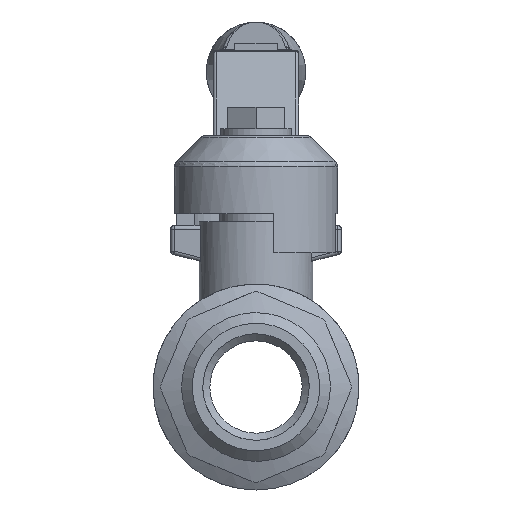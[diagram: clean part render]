
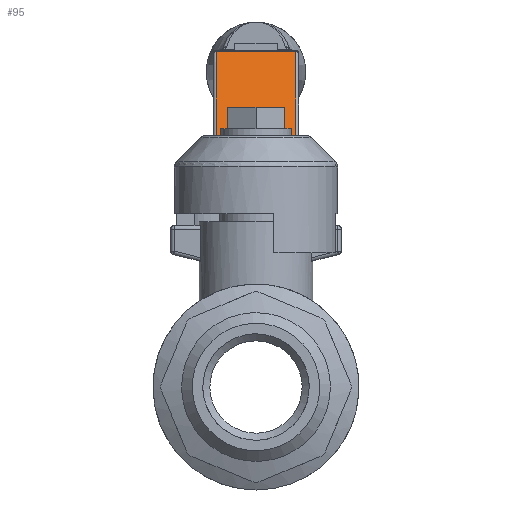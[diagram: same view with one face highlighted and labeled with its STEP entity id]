
A CAD part, left-side view. The second image highlights one B-rep face of the part: STEP entity #95.
In plain terms, the highlighted planar face has unit normal (-0.596, 0, 0.803).
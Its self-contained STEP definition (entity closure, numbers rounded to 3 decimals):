
#95=ADVANCED_FACE('',(#935),#937,.T.);
#935=FACE_BOUND('',#936,.T.);
#936=EDGE_LOOP('',(#6997,#6998,#6999,#7000,#7001,#7002,#7003,#7004,#7005,#7006));
#937=PLANE('',#938);
#938=AXIS2_PLACEMENT_3D('',#939,#940,#941);
#939=CARTESIAN_POINT('',(23.,6.,47.4));
#940=DIRECTION('',(-0.596,0.,0.803));
#941=DIRECTION('',(-0.803,0.,-0.596));
#6997=ORIENTED_EDGE('',*,*,#10054,.T.);
#6998=ORIENTED_EDGE('',*,*,#10038,.T.);
#6999=ORIENTED_EDGE('',*,*,#9868,.T.);
#7000=ORIENTED_EDGE('',*,*,#10055,.F.);
#7001=ORIENTED_EDGE('',*,*,#10056,.T.);
#7002=ORIENTED_EDGE('',*,*,#10057,.F.);
#7003=ORIENTED_EDGE('',*,*,#9866,.T.);
#7004=ORIENTED_EDGE('',*,*,#10052,.F.);
#7005=ORIENTED_EDGE('',*,*,#10058,.F.);
#7006=ORIENTED_EDGE('',*,*,#10059,.F.);
#9866=EDGE_CURVE('',#11464,#11462,#11465,.F.);
#9868=EDGE_CURVE('',#11468,#11466,#11469,.F.);
#10038=EDGE_CURVE('',#11800,#11468,#11801,.T.);
#10052=EDGE_CURVE('',#11825,#11462,#11826,.T.);
#10054=EDGE_CURVE('',#11828,#11800,#11829,.T.);
#10055=EDGE_CURVE('',#11830,#11466,#11831,.T.);
#10056=EDGE_CURVE('',#11830,#11832,#11833,.T.);
#10057=EDGE_CURVE('',#11464,#11832,#11834,.T.);
#10058=EDGE_CURVE('',#11835,#11825,#11836,.T.);
#10059=EDGE_CURVE('',#11828,#11835,#11837,.T.);
#11462=VERTEX_POINT('',#14360);
#11464=VERTEX_POINT('',#14378);
#11465=B_SPLINE_CURVE_WITH_KNOTS('',3,
(#14379,#14380,#14381,#14382,#14383,#14384,#14385,#14386),
.UNSPECIFIED.,.F.,.F.,
(4,1,1,1,1,4),
(0.,0.162,0.326,0.493,0.711,1.),
.UNSPECIFIED.);
#11466=VERTEX_POINT('',#14387);
#11468=VERTEX_POINT('',#14392);
#11469=B_SPLINE_CURVE_WITH_KNOTS('',3,
(#14393,#14394,#14395,#14396,#14397,#14398,#14399,#14400),
.UNSPECIFIED.,.F.,.F.,
(4,1,1,1,1,4),
(0.,0.152,0.311,0.509,0.739,1.),
.UNSPECIFIED.);
#11800=VERTEX_POINT('',#15523);
#11801=LINE('',#15524,#15525);
#11825=VERTEX_POINT('',#15870);
#11826=LINE('',#15871,#15872);
#11828=VERTEX_POINT('',#15887);
#11829=LINE('',#15888,#15889);
#11830=VERTEX_POINT('',#15891);
#11831=B_SPLINE_CURVE_WITH_KNOTS('',3,
(#15892,#15893,#15894,#15895,#15896,#15897,#15898,#15899),
.UNSPECIFIED.,.F.,.F.,
(4,1,1,1,1,4),
(0.,0.171,0.396,0.618,0.837,1.),
.UNSPECIFIED.);
#11832=VERTEX_POINT('',#15900);
#11833=LINE('',#15901,#15902);
#11834=B_SPLINE_CURVE_WITH_KNOTS('',3,
(#15904,#15905,#15906,#15907,#15908,#15909,#15910,#15911),
.UNSPECIFIED.,.F.,.F.,
(4,1,1,1,1,4),
(0.,0.228,0.426,0.605,0.796,1.),
.UNSPECIFIED.);
#11835=VERTEX_POINT('',#15912);
#11836=LINE('',#15913,#15914);
#11837=LINE('',#15916,#15917);
#14360=CARTESIAN_POINT('',(5.928,-5.6,34.745));
#14378=CARTESIAN_POINT('',(6.416,-4.423,35.107));
#14379=CARTESIAN_POINT('',(5.928,-5.6,34.745));
#14380=CARTESIAN_POINT('',(5.957,-5.538,34.767));
#14381=CARTESIAN_POINT('',(6.015,-5.413,34.809));
#14382=CARTESIAN_POINT('',(6.099,-5.222,34.872));
#14383=CARTESIAN_POINT('',(6.19,-5.008,34.939));
#14384=CARTESIAN_POINT('',(6.298,-4.742,35.019));
#14385=CARTESIAN_POINT('',(6.374,-4.539,35.076));
#14386=CARTESIAN_POINT('',(6.416,-4.423,35.107));
#14387=CARTESIAN_POINT('',(6.416,4.423,35.107));
#14392=CARTESIAN_POINT('',(5.928,5.6,34.745));
#14393=CARTESIAN_POINT('',(6.416,4.423,35.107));
#14394=CARTESIAN_POINT('',(6.394,4.484,35.091));
#14395=CARTESIAN_POINT('',(6.348,4.609,35.056));
#14396=CARTESIAN_POINT('',(6.269,4.812,34.998));
#14397=CARTESIAN_POINT('',(6.175,5.043,34.928));
#14398=CARTESIAN_POINT('',(6.06,5.312,34.843));
#14399=CARTESIAN_POINT('',(5.975,5.5,34.78));
#14400=CARTESIAN_POINT('',(5.928,5.6,34.745));
#15523=CARTESIAN_POINT('',(22.762,5.6,47.224));
#15524=CARTESIAN_POINT('',(22.762,5.6,47.223));
#15525=VECTOR('',#15526,1.);
#15526=DIRECTION('',(-0.803,0.,-0.596));
#15870=CARTESIAN_POINT('',(22.762,-5.6,47.224));
#15871=CARTESIAN_POINT('',(22.762,-5.6,47.223));
#15872=VECTOR('',#15873,1.);
#15873=DIRECTION('',(-0.803,0.,-0.596));
#15887=CARTESIAN_POINT('',(22.868,5.599,47.302));
#15888=CARTESIAN_POINT('',(22.869,5.599,47.303));
#15889=VECTOR('',#15890,1.);
#15890=DIRECTION('',(-0.807,0.006,-0.591));
#15891=CARTESIAN_POINT('',(6.812,3.139,35.4));
#15892=CARTESIAN_POINT('',(6.812,3.139,35.4));
#15893=CARTESIAN_POINT('',(6.793,3.214,35.386));
#15894=CARTESIAN_POINT('',(6.747,3.386,35.352));
#15895=CARTESIAN_POINT('',(6.671,3.653,35.296));
#15896=CARTESIAN_POINT('',(6.583,3.938,35.231));
#15897=CARTESIAN_POINT('',(6.498,4.194,35.167));
#15898=CARTESIAN_POINT('',(6.441,4.355,35.125));
#15899=CARTESIAN_POINT('',(6.416,4.423,35.107));
#15900=CARTESIAN_POINT('',(6.812,-3.139,35.4));
#15901=CARTESIAN_POINT('',(6.812,3.139,35.4));
#15902=VECTOR('',#15903,1.);
#15903=DIRECTION('',(0.,-1.,0.));
#15904=CARTESIAN_POINT('',(6.416,-4.423,35.107));
#15905=CARTESIAN_POINT('',(6.451,-4.327,35.133));
#15906=CARTESIAN_POINT('',(6.514,-4.148,35.179));
#15907=CARTESIAN_POINT('',(6.598,-3.891,35.241));
#15908=CARTESIAN_POINT('',(6.672,-3.648,35.297));
#15909=CARTESIAN_POINT('',(6.743,-3.4,35.349));
#15910=CARTESIAN_POINT('',(6.789,-3.228,35.383));
#15911=CARTESIAN_POINT('',(6.812,-3.139,35.4));
#15912=CARTESIAN_POINT('',(22.868,-5.599,47.302));
#15913=CARTESIAN_POINT('',(22.869,-5.599,47.303));
#15914=VECTOR('',#15915,1.);
#15915=DIRECTION('',(-0.807,-0.006,-0.591));
#15916=CARTESIAN_POINT('',(22.867,5.599,47.302));
#15917=VECTOR('',#15918,1.);
#15918=DIRECTION('',(0.,-1.,0.));
